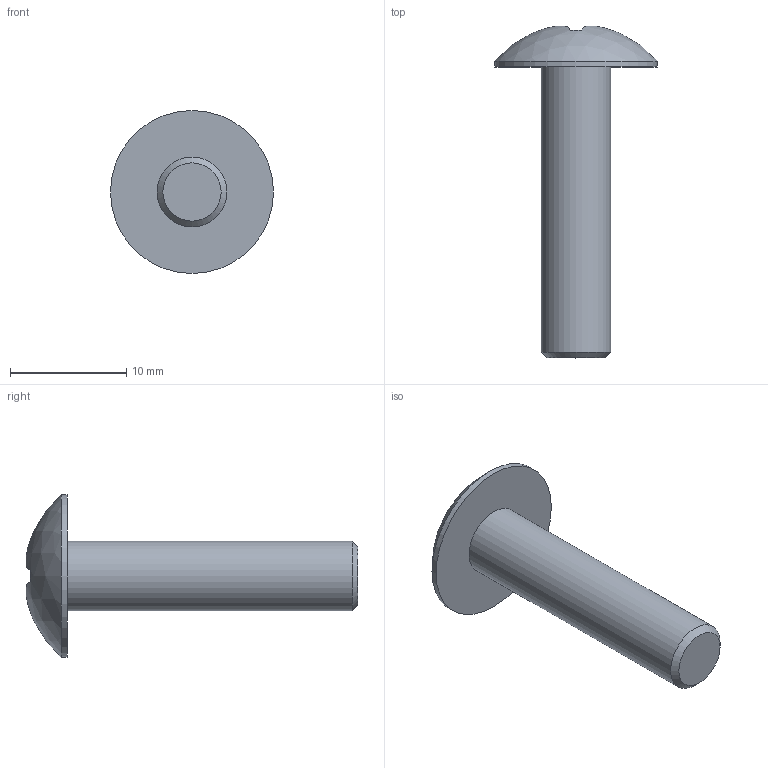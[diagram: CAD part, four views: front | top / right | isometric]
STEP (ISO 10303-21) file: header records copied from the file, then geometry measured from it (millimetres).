
FILE_DESCRIPTION(/* description */ (''),/* implementation_level */ '2;1');
FILE_NAME(/* name */ 'C:\Users\AMS43\Documents\Inventor\AMS\misumi\ボルト_ipt\ボルト_stp\TSB-06-25.ipt.stp',/* time_stamp */ '2016-10-06T11:46:46+09:00',/* author */ ('AMS43'),/* organization */ (''),/* preprocessor_version */ 'ST-DEVELOPER v15.2',/* originating_system */ 'Autodesk Inventor 2014',/* authorisation */ '');
FILE_SCHEMA (('AUTOMOTIVE_DESIGN { 1 0 10303 214 3 1 1 }'));
Length unit declared in the file: metre
Products named in the file (1): TSB-06-25
Bounding box: 14 x 28.52 x 14 mm (x, y, z)
Volume: 1015.7 mm3; surface area: 857.9 mm2
Topology: 1 solids, 1 shells, 15 faces, 32 edges, 21 vertices
Faces by surface type: plane 7, cylinder 6, sphere 1, cone 1
Full cylindrical faces by diameter (mm): 6 x1, 14 x1
Entity records: 455 total; most frequent: CARTESIAN_POINT 102, DIRECTION 70, ORIENTED_EDGE 58, EDGE_CURVE 29, AXIS2_PLACEMENT_3D 29, VERTEX_POINT 21, EDGE_LOOP 20, FACE_OUTER_BOUND 15
